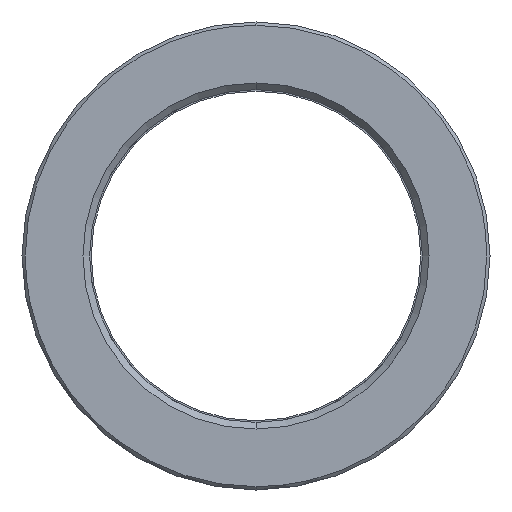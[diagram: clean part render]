
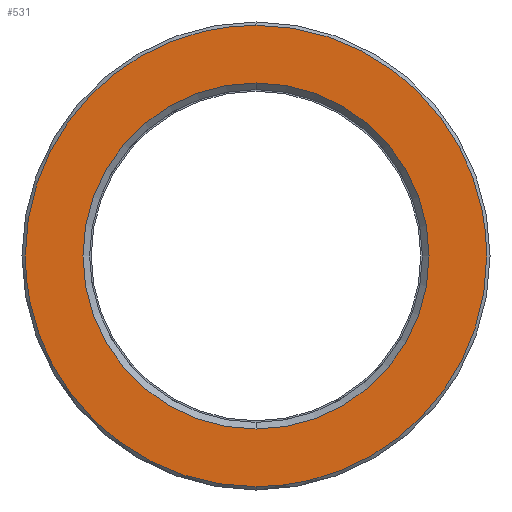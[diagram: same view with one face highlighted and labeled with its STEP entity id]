
A CAD part, left-side view. The second image highlights one B-rep face of the part: STEP entity #531.
In plain terms, the highlighted planar face has unit normal (-1, 0, 0).
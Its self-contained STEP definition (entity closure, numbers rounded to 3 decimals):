
#311=CARTESIAN_POINT('Axis2P3D Location',(0.,0.,0.)) ;
#315=CARTESIAN_POINT('Vertex',(0.,26.25,0.)) ;
#317=CARTESIAN_POINT('Vertex',(0.,0.,26.25)) ;
#320=CARTESIAN_POINT('Axis2P3D Location',(0.,0.,0.)) ;
#324=CARTESIAN_POINT('Vertex',(0.,0.,-26.25)) ;
#351=CARTESIAN_POINT('Axis2P3D Location',(0.,0.,0.)) ;
#355=CARTESIAN_POINT('Vertex',(0.,-26.25,0.)) ;
#358=CARTESIAN_POINT('Axis2P3D Location',(0.,0.,0.)) ;
#438=CARTESIAN_POINT('Axis2P3D Location',(0.,35.,0.)) ;
#444=CARTESIAN_POINT('Control Point',(0.,0.,-35.)) ;
#445=CARTESIAN_POINT('Control Point',(0.,1.757,-35.)) ;
#446=CARTESIAN_POINT('Control Point',(0.,3.514,-34.89)) ;
#447=CARTESIAN_POINT('Control Point',(0.,5.261,-34.669)) ;
#448=CARTESIAN_POINT('Control Point',(0.,10.128,-33.742)) ;
#449=CARTESIAN_POINT('Control Point',(0.,14.778,-31.968)) ;
#450=CARTESIAN_POINT('Control Point',(0.,17.633,-30.487)) ;
#451=CARTESIAN_POINT('Control Point',(0.,22.955,-26.9)) ;
#452=CARTESIAN_POINT('Control Point',(0.,27.334,-22.209)) ;
#453=CARTESIAN_POINT('Control Point',(0.,29.246,-19.623)) ;
#454=CARTESIAN_POINT('Control Point',(0.,32.284,-14.345)) ;
#455=CARTESIAN_POINT('Control Point',(0.,34.122,-8.548)) ;
#456=CARTESIAN_POINT('Control Point',(0.,34.707,-5.725)) ;
#457=CARTESIAN_POINT('Control Point',(0.,35.,-2.863)) ;
#458=CARTESIAN_POINT('Control Point',(0.,35.,0.)) ;
#459=CARTESIAN_POINT('Vertex',(0.,0.,-35.)) ;
#461=CARTESIAN_POINT('Vertex',(0.,35.,0.)) ;
#465=CARTESIAN_POINT('Control Point',(0.,-35.,0.)) ;
#466=CARTESIAN_POINT('Control Point',(0.,-35.,-3.188)) ;
#467=CARTESIAN_POINT('Control Point',(0.,-34.637,-6.376)) ;
#468=CARTESIAN_POINT('Control Point',(0.,-33.911,-9.509)) ;
#469=CARTESIAN_POINT('Control Point',(0.,-31.758,-15.555)) ;
#470=CARTESIAN_POINT('Control Point',(0.,-28.302,-20.962)) ;
#471=CARTESIAN_POINT('Control Point',(0.,-26.272,-23.456)) ;
#472=CARTESIAN_POINT('Control Point',(0.,-21.679,-27.938)) ;
#473=CARTESIAN_POINT('Control Point',(0.,-16.197,-31.274)) ;
#474=CARTESIAN_POINT('Control Point',(0.,-13.276,-32.621)) ;
#475=CARTESIAN_POINT('Control Point',(0.,-8.86,-34.074)) ;
#476=CARTESIAN_POINT('Control Point',(0.,-4.289,-34.781)) ;
#477=CARTESIAN_POINT('Control Point',(0.,-2.863,-34.927)) ;
#478=CARTESIAN_POINT('Control Point',(0.,-1.431,-35.)) ;
#479=CARTESIAN_POINT('Control Point',(0.,0.,-35.)) ;
#480=CARTESIAN_POINT('Vertex',(0.,-35.,0.)) ;
#484=CARTESIAN_POINT('Control Point',(0.,0.,35.)) ;
#485=CARTESIAN_POINT('Control Point',(0.,-1.757,35.)) ;
#486=CARTESIAN_POINT('Control Point',(0.,-3.514,34.89)) ;
#487=CARTESIAN_POINT('Control Point',(0.,-5.261,34.669)) ;
#488=CARTESIAN_POINT('Control Point',(0.,-10.128,33.742)) ;
#489=CARTESIAN_POINT('Control Point',(0.,-14.778,31.968)) ;
#490=CARTESIAN_POINT('Control Point',(0.,-17.633,30.487)) ;
#491=CARTESIAN_POINT('Control Point',(0.,-22.955,26.9)) ;
#492=CARTESIAN_POINT('Control Point',(0.,-27.334,22.209)) ;
#493=CARTESIAN_POINT('Control Point',(0.,-29.246,19.623)) ;
#494=CARTESIAN_POINT('Control Point',(0.,-32.284,14.345)) ;
#495=CARTESIAN_POINT('Control Point',(0.,-34.122,8.548)) ;
#496=CARTESIAN_POINT('Control Point',(0.,-34.707,5.725)) ;
#497=CARTESIAN_POINT('Control Point',(0.,-35.,2.863)) ;
#498=CARTESIAN_POINT('Control Point',(0.,-35.,0.)) ;
#499=CARTESIAN_POINT('Vertex',(0.,0.,35.)) ;
#503=CARTESIAN_POINT('Control Point',(0.,35.,0.)) ;
#504=CARTESIAN_POINT('Control Point',(0.,35.,3.188)) ;
#505=CARTESIAN_POINT('Control Point',(0.,34.637,6.376)) ;
#506=CARTESIAN_POINT('Control Point',(0.,33.911,9.509)) ;
#507=CARTESIAN_POINT('Control Point',(0.,31.758,15.555)) ;
#508=CARTESIAN_POINT('Control Point',(0.,28.302,20.962)) ;
#509=CARTESIAN_POINT('Control Point',(0.,26.272,23.456)) ;
#510=CARTESIAN_POINT('Control Point',(0.,21.679,27.938)) ;
#511=CARTESIAN_POINT('Control Point',(0.,16.197,31.274)) ;
#512=CARTESIAN_POINT('Control Point',(0.,13.276,32.621)) ;
#513=CARTESIAN_POINT('Control Point',(0.,8.86,34.074)) ;
#514=CARTESIAN_POINT('Control Point',(0.,4.289,34.781)) ;
#515=CARTESIAN_POINT('Control Point',(0.,2.863,34.927)) ;
#516=CARTESIAN_POINT('Control Point',(0.,1.431,35.)) ;
#517=CARTESIAN_POINT('Control Point',(0.,0.,35.)) ;
#312=DIRECTION('Axis2P3D Direction',(-1.,0.,0.)) ;
#321=DIRECTION('Axis2P3D Direction',(-1.,0.,0.)) ;
#352=DIRECTION('Axis2P3D Direction',(-1.,0.,0.)) ;
#359=DIRECTION('Axis2P3D Direction',(-1.,0.,0.)) ;
#439=DIRECTION('Axis2P3D Direction',(-1.,0.,0.)) ;
#440=DIRECTION('Axis2P3D XDirection',(0.,0.,1.)) ;
#313=AXIS2_PLACEMENT_3D('Circle Axis2P3D',#311,#312,$) ;
#322=AXIS2_PLACEMENT_3D('Circle Axis2P3D',#320,#321,$) ;
#353=AXIS2_PLACEMENT_3D('Circle Axis2P3D',#351,#352,$) ;
#360=AXIS2_PLACEMENT_3D('Circle Axis2P3D',#358,#359,$) ;
#441=AXIS2_PLACEMENT_3D('Plane Axis2P3D',#438,#439,#440) ;
#520=ORIENTED_EDGE('',*,*,#463,.F.) ;
#521=ORIENTED_EDGE('',*,*,#482,.F.) ;
#522=ORIENTED_EDGE('',*,*,#501,.F.) ;
#523=ORIENTED_EDGE('',*,*,#518,.F.) ;
#526=ORIENTED_EDGE('',*,*,#319,.T.) ;
#527=ORIENTED_EDGE('',*,*,#362,.T.) ;
#528=ORIENTED_EDGE('',*,*,#357,.T.) ;
#529=ORIENTED_EDGE('',*,*,#326,.T.) ;
#530=FACE_BOUND('',#525,.T.) ;
#531=ADVANCED_FACE('553-50X196',(#524,#530),#442,.T.) ;
#443=B_SPLINE_CURVE_WITH_KNOTS('',5,(#444,#445,#446,#447,#448,#449,#450,#451,#452,#453,#454,#455,#456,#457,#458),.UNSPECIFIED.,.F.,.U.,(6,3,3,3,6),(77.75,90.172,112.716,135.259,155.5),.UNSPECIFIED.) ;
#464=B_SPLINE_CURVE_WITH_KNOTS('',5,(#465,#466,#467,#468,#469,#470,#471,#472,#473,#474,#475,#476,#477,#478,#479),.UNSPECIFIED.,.F.,.U.,(6,3,3,3,6),(0.,22.543,45.086,67.629,77.75),.UNSPECIFIED.) ;
#483=B_SPLINE_CURVE_WITH_KNOTS('',5,(#484,#485,#486,#487,#488,#489,#490,#491,#492,#493,#494,#495,#496,#497,#498),.UNSPECIFIED.,.F.,.U.,(6,3,3,3,6),(77.75,90.172,112.716,135.259,155.5),.UNSPECIFIED.) ;
#502=B_SPLINE_CURVE_WITH_KNOTS('',5,(#503,#504,#505,#506,#507,#508,#509,#510,#511,#512,#513,#514,#515,#516,#517),.UNSPECIFIED.,.F.,.U.,(6,3,3,3,6),(0.,22.543,45.086,67.629,77.75),.UNSPECIFIED.) ;
#314=CIRCLE('generated circle',#313,26.25) ;
#323=CIRCLE('generated circle',#322,26.25) ;
#354=CIRCLE('generated circle',#353,26.25) ;
#361=CIRCLE('generated circle',#360,26.25) ;
#319=EDGE_CURVE('',#316,#318,#314,.F.) ;
#326=EDGE_CURVE('',#325,#316,#323,.F.) ;
#357=EDGE_CURVE('',#356,#325,#354,.F.) ;
#362=EDGE_CURVE('',#318,#356,#361,.F.) ;
#463=EDGE_CURVE('',#460,#462,#443,.T.) ;
#482=EDGE_CURVE('',#481,#460,#464,.T.) ;
#501=EDGE_CURVE('',#500,#481,#483,.T.) ;
#518=EDGE_CURVE('',#462,#500,#502,.T.) ;
#519=EDGE_LOOP('',(#520,#521,#522,#523)) ;
#525=EDGE_LOOP('',(#526,#527,#528,#529)) ;
#524=FACE_OUTER_BOUND('',#519,.T.) ;
#442=PLANE('Plane',#441) ;
#316=VERTEX_POINT('',#315) ;
#318=VERTEX_POINT('',#317) ;
#325=VERTEX_POINT('',#324) ;
#356=VERTEX_POINT('',#355) ;
#460=VERTEX_POINT('',#459) ;
#462=VERTEX_POINT('',#461) ;
#481=VERTEX_POINT('',#480) ;
#500=VERTEX_POINT('',#499) ;
